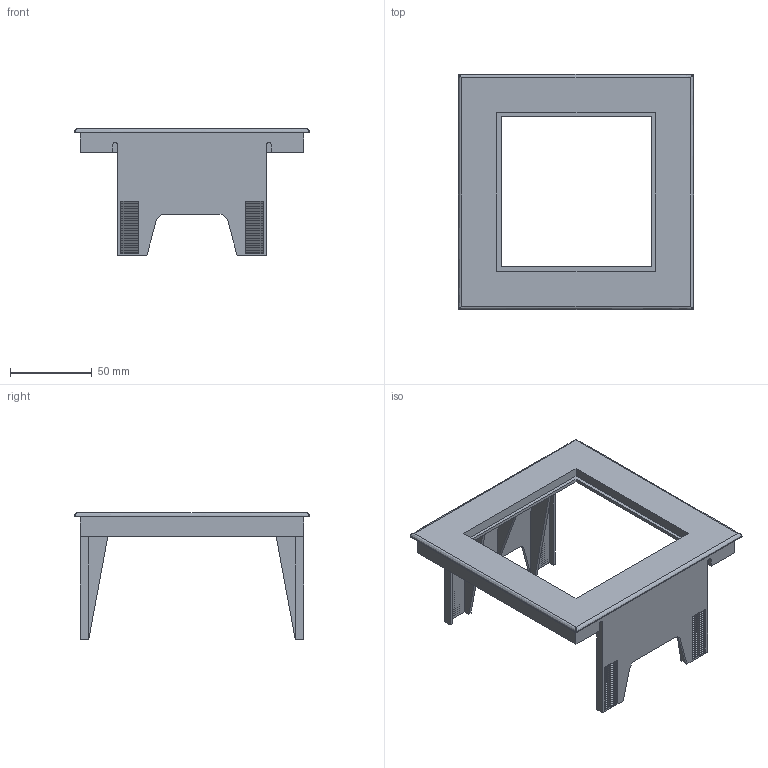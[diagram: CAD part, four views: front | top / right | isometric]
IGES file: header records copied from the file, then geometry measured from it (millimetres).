
Start section:  PTC IGES file: 144x144_to_96x96_adapter_igesfile.igs
Global section: file name: 144x144_to_96x96_adapter_igesfile.igs; native system: Pro/ENGINEER by Parametric Technology Corporation; preprocessor: 2010180; author: chrisloe; organization: Unknown; date: 20120404.163855; units: millimetre
Bounding box: 144 x 144 x 77.5 mm (x, y, z)
Volume: 77829.7 mm3; surface area: 81580.1 mm2
Topology: 1 solids, 1 shells, 1017 faces, 2894 edges, 1920 vertices
Faces by surface type: bspline 969, revolution 48
